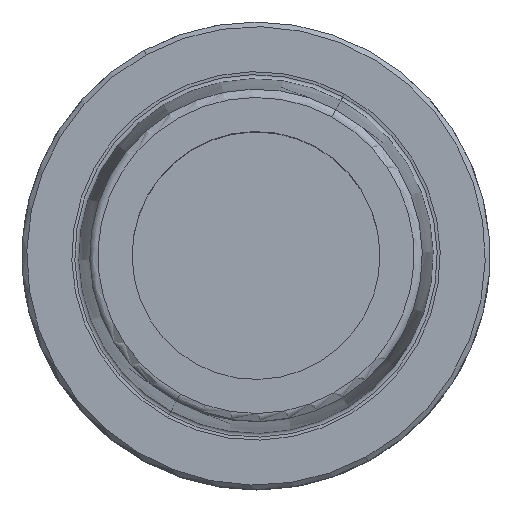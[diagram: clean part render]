
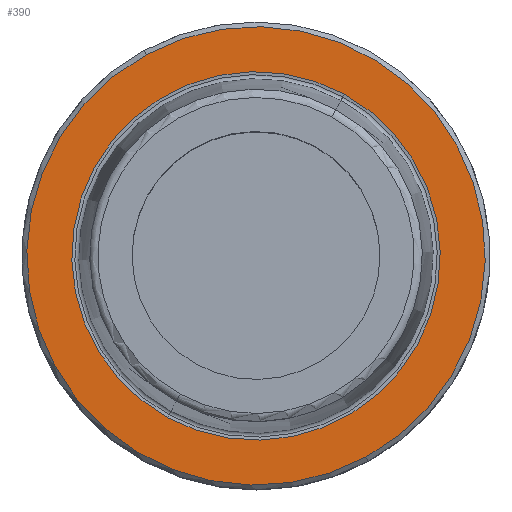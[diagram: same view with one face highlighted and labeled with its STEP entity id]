
A CAD part, top view. The second image highlights one B-rep face of the part: STEP entity #390.
In plain terms, the highlighted planar face has unit normal (0, 0, 1).
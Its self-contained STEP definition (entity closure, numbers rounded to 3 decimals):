
#327=AXIS2_PLACEMENT_3D('Circle Axis2P3D',#325,#326,$) ;
#353=AXIS2_PLACEMENT_3D('Circle Axis2P3D',#351,#352,$) ;
#366=AXIS2_PLACEMENT_3D('Plane Axis2P3D',#363,#364,#365) ;
#370=AXIS2_PLACEMENT_3D('Circle Axis2P3D',#368,#369,$) ;
#379=AXIS2_PLACEMENT_3D('Circle Axis2P3D',#377,#378,$) ;
#325=CARTESIAN_POINT('Axis2P3D Location',(0.,0.,0.)) ;
#329=CARTESIAN_POINT('Vertex',(18.88,34.56,0.)) ;
#331=CARTESIAN_POINT('Vertex',(-18.88,-34.56,0.)) ;
#351=CARTESIAN_POINT('Axis2P3D Location',(0.,0.,0.)) ;
#363=CARTESIAN_POINT('Axis2P3D Location',(0.,-38.285,0.)) ;
#368=CARTESIAN_POINT('Axis2P3D Location',(0.,0.,0.)) ;
#372=CARTESIAN_POINT('Vertex',(23.492,-43.002,0.)) ;
#374=CARTESIAN_POINT('Vertex',(-23.492,43.002,0.)) ;
#377=CARTESIAN_POINT('Axis2P3D Location',(0.,0.,0.)) ;
#326=DIRECTION('Axis2P3D Direction',(0.,0.,1.)) ;
#352=DIRECTION('Axis2P3D Direction',(0.,0.,1.)) ;
#364=DIRECTION('Axis2P3D Direction',(0.,0.,-1.)) ;
#365=DIRECTION('Axis2P3D XDirection',(-1.,0.,0.)) ;
#369=DIRECTION('Axis2P3D Direction',(0.,0.,-1.)) ;
#378=DIRECTION('Axis2P3D Direction',(0.,0.,-1.)) ;
#383=ORIENTED_EDGE('',*,*,#376,.F.) ;
#384=ORIENTED_EDGE('',*,*,#381,.F.) ;
#387=ORIENTED_EDGE('',*,*,#333,.T.) ;
#388=ORIENTED_EDGE('',*,*,#355,.T.) ;
#389=FACE_BOUND('',#386,.T.) ;
#390=ADVANCED_FACE('NOCUT',(#385,#389),#367,.F.) ;
#328=CIRCLE('generated circle',#327,39.381) ;
#354=CIRCLE('generated circle',#353,39.381) ;
#371=CIRCLE('generated circle',#370,49.) ;
#380=CIRCLE('generated circle',#379,49.) ;
#333=EDGE_CURVE('',#330,#332,#328,.F.) ;
#355=EDGE_CURVE('',#332,#330,#354,.F.) ;
#376=EDGE_CURVE('',#373,#375,#371,.T.) ;
#381=EDGE_CURVE('',#375,#373,#380,.T.) ;
#382=EDGE_LOOP('',(#383,#384)) ;
#386=EDGE_LOOP('',(#387,#388)) ;
#385=FACE_OUTER_BOUND('',#382,.T.) ;
#367=PLANE('',#366) ;
#330=VERTEX_POINT('',#329) ;
#332=VERTEX_POINT('',#331) ;
#373=VERTEX_POINT('',#372) ;
#375=VERTEX_POINT('',#374) ;
